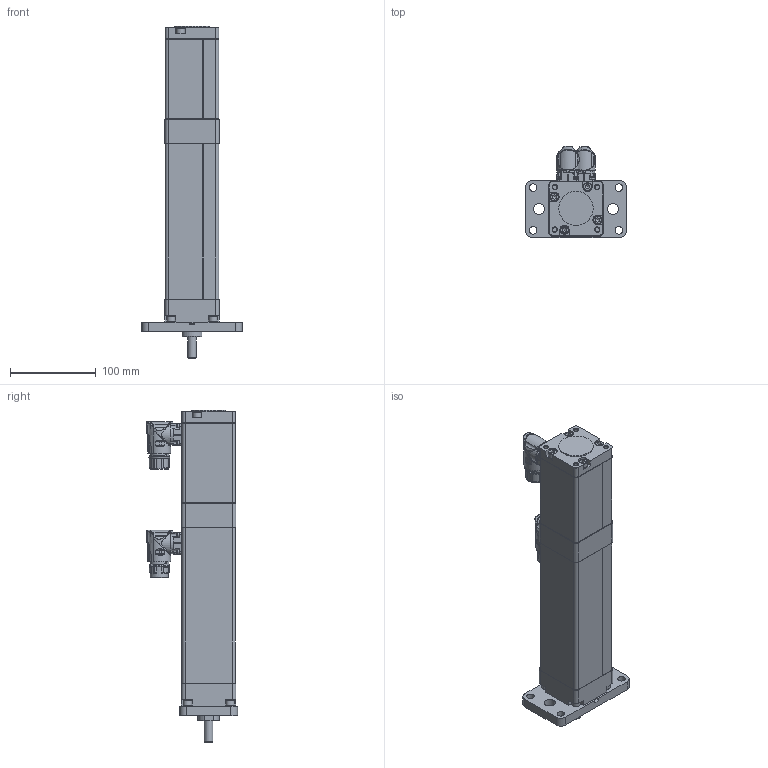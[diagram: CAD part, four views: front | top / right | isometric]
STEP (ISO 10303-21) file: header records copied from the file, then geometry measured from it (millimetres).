
FILE_DESCRIPTION (( 'STEP AP203' ), '1' );
FILE_NAME ('IMA22_BN05_SM127.000_IMA-495291-1.step', '2025-08-18T17:22:06', ( '' ), ( '' ), 'SwSTEP 2.0', 'SolidWorks 2024', '' );
FILE_SCHEMA (( 'CONFIG_CONTROL_DESIGN' ));
Length unit declared in the file: inch
Products named in the file (4): IMA22_BN05_SM127.000_IMA-495291-1; Base_IMA22_BN05_SM127.000_IMA-495291-1; 27229018_IMA22_BN05_SM127.000_IMA-495291-1; tempJoin0_27229012_IMA22_BN05_SM127.000_IMA-495291-1
Assembly tree (3 placements, depth 2):
  IMA22_BN05_SM127.000_IMA-495291-1
    tempJoin0_27229012_IMA22_BN05_SM127.000_IMA-495291-1
    27229018_IMA22_BN05_SM127.000_IMA-495291-1
    Base_IMA22_BN05_SM127.000_IMA-495291-1
Bounding box: 117.35 x 106.3 x 387.47 mm (x, y, z)
Volume: 1456840.2 mm3; surface area: 176441.1 mm2
Topology: 3 solids, 15 shells, 1911 faces, 4742 edges, 2968 vertices
Faces by surface type: plane 819, cylinder 511, bspline 442, cone 95, torus 44
Full cylindrical faces by diameter (mm): 1 x17, 1.18 x17, 2 x6, 2.5 x8, 2.7 x8, 2.972 x8, 3 x2, 3.2 x2, 4.5 x10, 5.001 x8, 5.35 x3, 5.5 x3, 6 x8, 6.25 x16, 6.68 x4, 6.756 x8, 8.738 x4, 10 x13, 10.312 x4, 11.176 x8, 12.7 x2, 17.4 x1, 18.796 x1, 19.9 x1, 21.15 x4, 21.6 x1, 25.146 x1, 25.385 x1, 25.4 x1, 30 x2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
Entity records: 76385 total; most frequent: CARTESIAN_POINT 36236, ORIENTED_EDGE 8540, DIRECTION 6880, EDGE_CURVE 4270, VERTEX_POINT 2838, AXIS2_PLACEMENT_3D 2467, EDGE_LOOP 2406, FACE_OUTER_BOUND 2139
